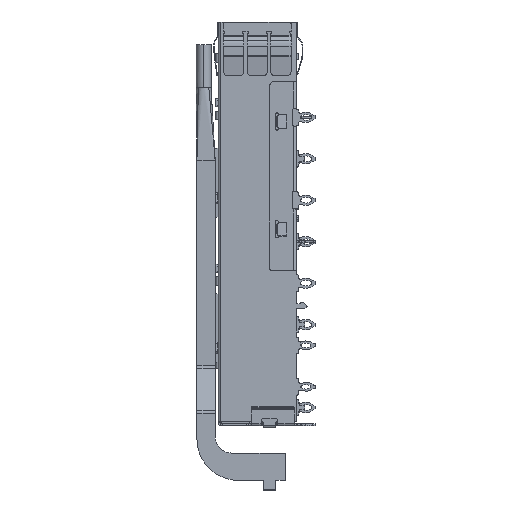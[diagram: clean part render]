
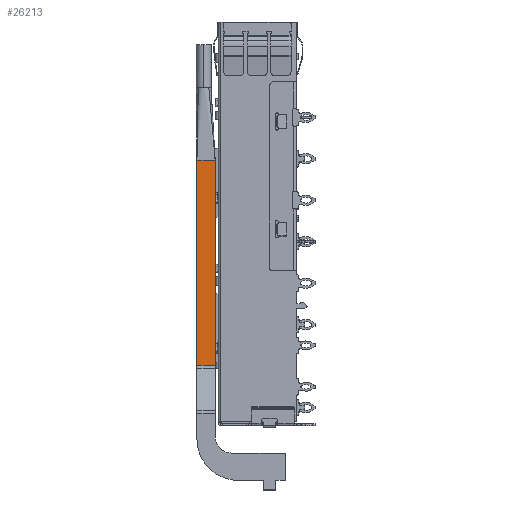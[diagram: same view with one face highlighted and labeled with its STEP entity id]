
A CAD part, left-side view. The second image highlights one B-rep face of the part: STEP entity #26213.
In plain terms, the highlighted planar face has unit normal (-1, 0, 0).
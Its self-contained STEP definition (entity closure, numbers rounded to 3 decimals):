
#376 = EDGE_CURVE ( 'NONE', #39642, #49459, #45064, .T. ) ;
#1526 = AXIS2_PLACEMENT_3D ( 'NONE', #41689, #47609, #58153 ) ;
#4382 = CARTESIAN_POINT ( 'NONE',  ( -11.17, 0.35, -16.65 ) ) ;
#4578 = LINE ( 'NONE', #9570, #31830 ) ;
#6861 = CARTESIAN_POINT ( 'NONE',  ( -11.17, 2.55, -16.65 ) ) ;
#7643 = EDGE_CURVE ( 'NONE', #28912, #49459, #4578, .T. ) ;
#7679 = VECTOR ( 'NONE', #39989, 1000. ) ;
#7841 = DIRECTION ( 'NONE',  ( 0., 1., 0. ) ) ;
#9570 = CARTESIAN_POINT ( 'NONE',  ( -11.17, 0.35, -41.57 ) ) ;
#10936 = VERTEX_POINT ( 'NONE', #6861 ) ;
#22489 = EDGE_CURVE ( 'NONE', #28912, #10936, #28055, .T. ) ;
#23887 = CARTESIAN_POINT ( 'NONE',  ( -11.17, 2.55, -41.393 ) ) ;
#25054 = CARTESIAN_POINT ( 'NONE',  ( -11.17, -8.1, -16.65 ) ) ;
#26213 = ADVANCED_FACE ( 'NONE', ( #49934 ), #41175, .F. ) ;
#28055 = LINE ( 'NONE', #25054, #45620 ) ;
#28912 = VERTEX_POINT ( 'NONE', #4382 ) ;
#31830 = VECTOR ( 'NONE', #37049, 1000. ) ;
#37049 = DIRECTION ( 'NONE',  ( 0., 0., -1. ) ) ;
#38741 = ORIENTED_EDGE ( 'NONE', *, *, #39998, .F. ) ;
#38806 = DIRECTION ( 'NONE',  ( 0., -1., 0. ) ) ;
#39642 = VERTEX_POINT ( 'NONE', #23887 ) ;
#39989 = DIRECTION ( 'NONE',  ( 0., 0., 1. ) ) ;
#39998 = EDGE_CURVE ( 'NONE', #39642, #10936, #52494, .T. ) ;
#41175 = PLANE ( 'NONE',  #1526 ) ;
#41689 = CARTESIAN_POINT ( 'NONE',  ( -11.17, -8.1, -41.57 ) ) ;
#41974 = ORIENTED_EDGE ( 'NONE', *, *, #7643, .F. ) ;
#44955 = CARTESIAN_POINT ( 'NONE',  ( -11.17, 2.55, -41.57 ) ) ;
#45064 = LINE ( 'NONE', #62139, #50366 ) ;
#45620 = VECTOR ( 'NONE', #7841, 1000. ) ;
#45761 = CARTESIAN_POINT ( 'NONE',  ( -11.17, 0.35, -41.393 ) ) ;
#47609 = DIRECTION ( 'NONE',  ( 1., 0., 0. ) ) ;
#49459 = VERTEX_POINT ( 'NONE', #45761 ) ;
#49934 = FACE_OUTER_BOUND ( 'NONE', #70434, .T. ) ;
#50366 = VECTOR ( 'NONE', #38806, 1000. ) ;
#52494 = LINE ( 'NONE', #44955, #7679 ) ;
#57327 = ORIENTED_EDGE ( 'NONE', *, *, #22489, .T. ) ;
#58149 = ORIENTED_EDGE ( 'NONE', *, *, #376, .T. ) ;
#58153 = DIRECTION ( 'NONE',  ( 0., 0., 1. ) ) ;
#62139 = CARTESIAN_POINT ( 'NONE',  ( -11.17, 0.35, -41.393 ) ) ;
#70434 = EDGE_LOOP ( 'NONE', ( #38741, #58149, #41974, #57327 ) ) ;
